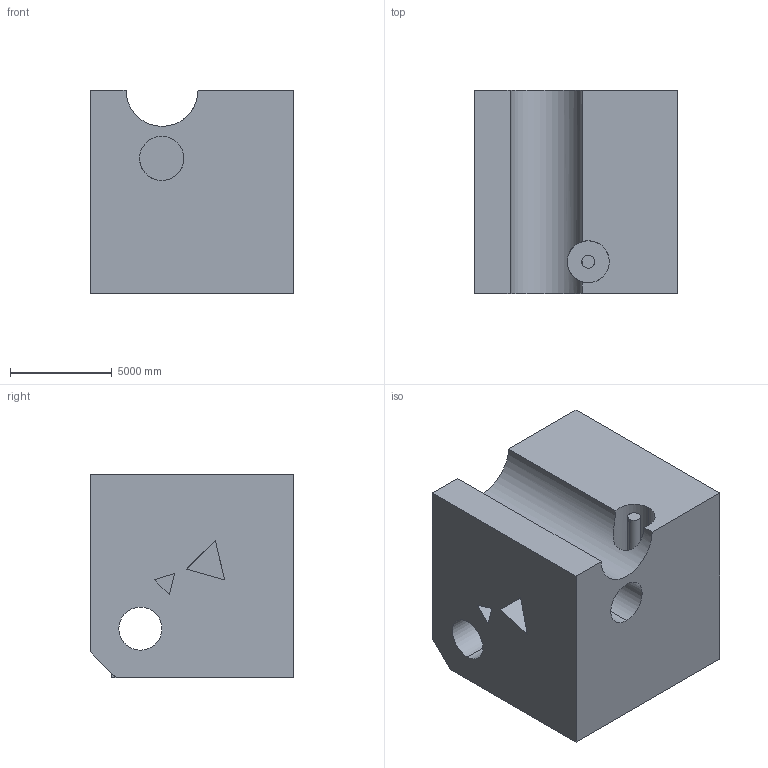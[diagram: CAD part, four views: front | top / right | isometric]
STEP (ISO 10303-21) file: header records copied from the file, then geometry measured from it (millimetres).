
FILE_DESCRIPTION (( 'STEP AP203' ), '1' );
FILE_NAME ('360.STEP', '2022-09-07T13:10:49', ( 'user' ), ( '' ), 'SwSTEP 2.0', 'SolidWorks 2021', '' );
FILE_SCHEMA (( 'CONFIG_CONTROL_DESIGN' ));
Length unit declared in the file: centimetre
Products named in the file (1): 360
Bounding box: 10000 x 10000 x 10000 mm (x, y, z)
Volume: 853514962026.5 mm3; surface area: 802209155.9 mm2
Topology: 1 solids, 1 shells, 37 faces, 96 edges, 64 vertices
Faces by surface type: plane 27, cylinder 10
Entity records: 1489 total; most frequent: CARTESIAN_POINT 494, ORIENTED_EDGE 192, DIRECTION 182, EDGE_CURVE 96, LINE 70, VECTOR 70, VERTEX_POINT 64, AXIS2_PLACEMENT_3D 56
